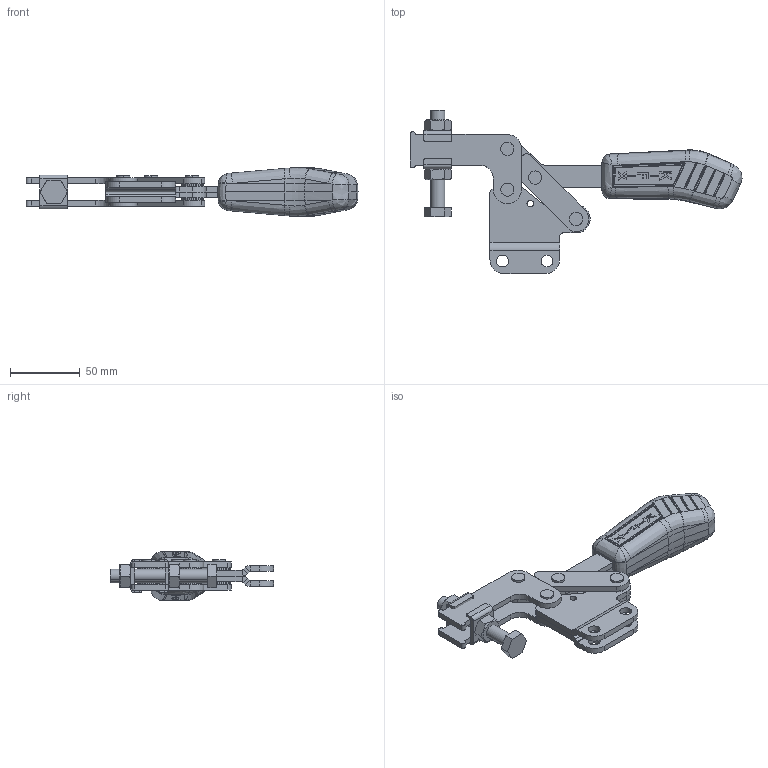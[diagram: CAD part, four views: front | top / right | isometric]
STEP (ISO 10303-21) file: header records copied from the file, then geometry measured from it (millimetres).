
FILE_DESCRIPTION (( 'STEP AP203' ), '1' );
FILE_NAME ('KF-531 RI.STEP', '2014-08-18T14:45:39', ( 'Ricardo' ), ( '' ), 'SwSTEP 2.0', 'SolidWorks 2013', '' );
FILE_SCHEMA (( 'CONFIG_CONTROL_DESIGN' ));
Length unit declared in the file: millimetre
Products named in the file (12): 11.50003; 02.11034_Esquerda; 17.50002; 01.10043; KF-531 RI; 03.13018; 08.10008; 06.50026; 07.60002; 14.10003; 12.50021; 02.11034_Direita
Assembly tree (26 placements, depth 2):
  KF-531 RI
    02.11034_Direita
    02.11034_Esquerda
    01.10043  x2
    03.13018  x2
    08.10008  x2
    06.50026  x4
    07.60002
    14.10003  x2
    12.50021
    11.50003  x2
    17.50002  x8
Bounding box: 238.69 x 117.34 x 35.03 mm (x, y, z)
Volume: 177172.5 mm3; surface area: 77024.8 mm2
Topology: 26 solids, 26 shells, 818 faces, 1990 edges, 1233 vertices
Faces by surface type: plane 284, cylinder 230, bspline 157, cone 92, sphere 52, torus 3
Entity records: 23557 total; most frequent: CARTESIAN_POINT 8873, ORIENTED_EDGE 2966, DIRECTION 2330, EDGE_CURVE 1483, VERTEX_POINT 932, AXIS2_PLACEMENT_3D 882, EDGE_LOOP 659, ADVANCED_FACE 596
